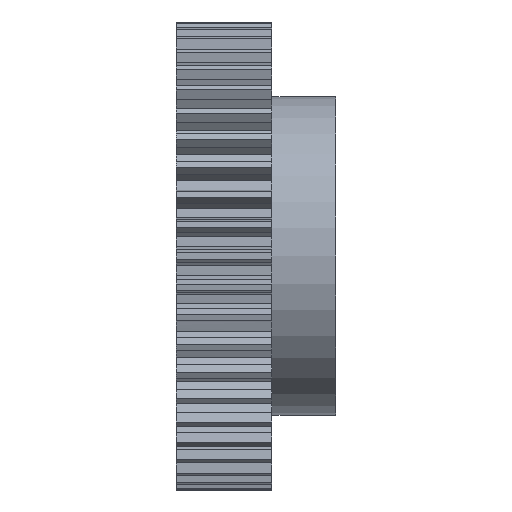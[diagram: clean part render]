
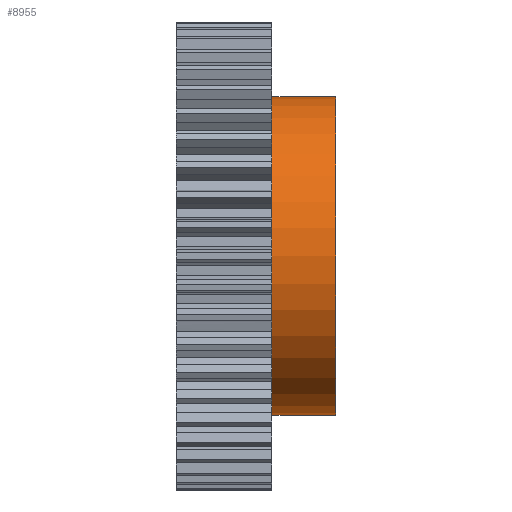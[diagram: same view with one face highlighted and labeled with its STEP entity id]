
A CAD part, front view. The second image highlights one B-rep face of the part: STEP entity #8955.
In plain terms, the highlighted cylindrical face has radius 50 mm (diameter 100 mm), a partial arc.
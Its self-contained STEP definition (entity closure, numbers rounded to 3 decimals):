
#835 = EDGE_CURVE ( 'NONE', #8982, #9131, #3570, .T. ) ;
#932 = EDGE_CURVE ( 'NONE', #2811, #2726, #3765, .T. ) ;
#1289 = EDGE_LOOP ( 'NONE', ( #9647, #9637, #8908, #9653 ) ) ;
#2726 = VERTEX_POINT ( 'NONE', #5642 ) ;
#2811 = VERTEX_POINT ( 'NONE', #5675 ) ;
#3570 = CIRCLE ( 'NONE', #3610, 50. ) ;
#3607 = DIRECTION ( 'NONE',  ( 0., 0., 1. ) ) ;
#3608 = DIRECTION ( 'NONE',  ( 1., 0., 0. ) ) ;
#3609 = CARTESIAN_POINT ( 'NONE',  ( 15., 0., 0. ) ) ;
#3610 = AXIS2_PLACEMENT_3D ( 'NONE', #3609, #3608, #3607 ) ;
#3751 = DIRECTION ( 'NONE',  ( 0., 0., 1. ) ) ;
#3752 = DIRECTION ( 'NONE',  ( -1., 0., 0. ) ) ;
#3753 = CARTESIAN_POINT ( 'NONE',  ( 35., 0., 0. ) ) ;
#3764 = AXIS2_PLACEMENT_3D ( 'NONE', #3753, #3752, #3751 ) ;
#3765 = CIRCLE ( 'NONE', #3764, 50. ) ;
#5642 = CARTESIAN_POINT ( 'NONE',  ( 35., 0., 50. ) ) ;
#5675 = CARTESIAN_POINT ( 'NONE',  ( 35., 0., -50. ) ) ;
#6760 = AXIS2_PLACEMENT_3D ( 'NONE', #6771, #6798, #6797 ) ;
#6771 = CARTESIAN_POINT ( 'NONE',  ( 15., 0., 0. ) ) ;
#6797 = DIRECTION ( 'NONE',  ( 0., 0., 1. ) ) ;
#6798 = DIRECTION ( 'NONE',  ( -1., 0., 0. ) ) ;
#6801 = FACE_OUTER_BOUND ( 'NONE', #1289, .T. ) ;
#6816 = CYLINDRICAL_SURFACE ( 'NONE', #6760, 50. ) ;
#6832 = CARTESIAN_POINT ( 'NONE',  ( 15., 0., 50. ) ) ;
#6854 = LINE ( 'NONE', #6904, #6903 ) ;
#6902 = DIRECTION ( 'NONE',  ( -1., 0., 0. ) ) ;
#6903 = VECTOR ( 'NONE', #6902, 1000. ) ;
#6904 = CARTESIAN_POINT ( 'NONE',  ( 15., 0., 50. ) ) ;
#7098 = CARTESIAN_POINT ( 'NONE',  ( 15., 0., -50. ) ) ;
#7103 = LINE ( 'NONE', #7147, #7144 ) ;
#7143 = DIRECTION ( 'NONE',  ( -1., 0., 0. ) ) ;
#7144 = VECTOR ( 'NONE', #7143, 1000. ) ;
#7147 = CARTESIAN_POINT ( 'NONE',  ( 15., 0., -50. ) ) ;
#8908 = ORIENTED_EDGE ( 'NONE', *, *, #8998, .T. ) ;
#8955 = ADVANCED_FACE ( 'NONE', ( #6801 ), #6816, .T. ) ;
#8982 = VERTEX_POINT ( 'NONE', #6832 ) ;
#8998 = EDGE_CURVE ( 'NONE', #2726, #8982, #6854, .T. ) ;
#9127 = EDGE_CURVE ( 'NONE', #2811, #9131, #7103, .T. ) ;
#9131 = VERTEX_POINT ( 'NONE', #7098 ) ;
#9637 = ORIENTED_EDGE ( 'NONE', *, *, #932, .T. ) ;
#9647 = ORIENTED_EDGE ( 'NONE', *, *, #9127, .F. ) ;
#9653 = ORIENTED_EDGE ( 'NONE', *, *, #835, .T. ) ;
